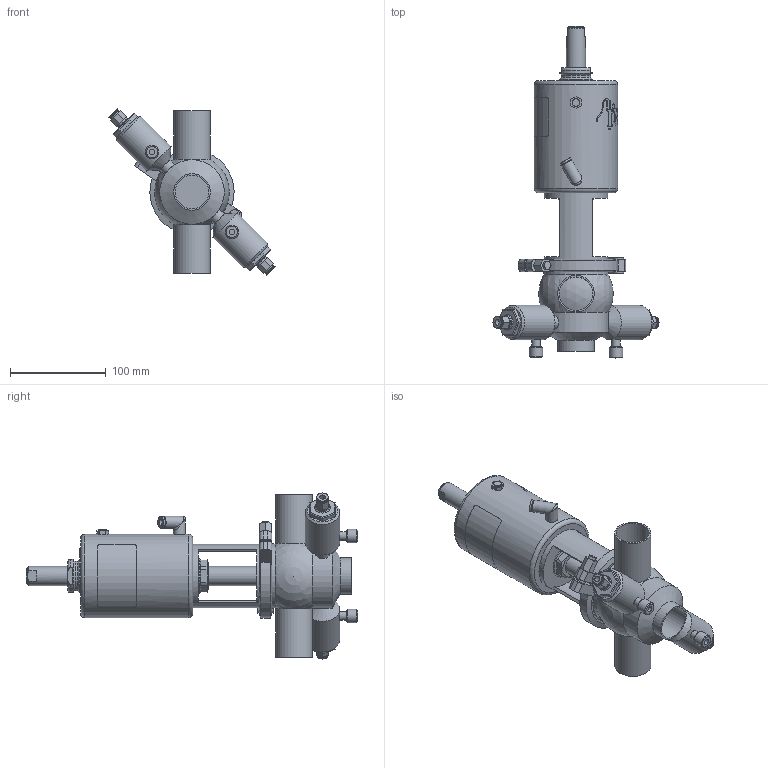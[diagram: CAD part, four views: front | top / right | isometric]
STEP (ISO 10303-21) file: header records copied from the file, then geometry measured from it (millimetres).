
FILE_DESCRIPTION (( 'STEP AP214' ), '1' );
FILE_NAME ('INNOVA D T W OD 1½ T1 AS NC_10.246.16.0002.STEP', '2024-08-08T09:16:52', ( '' ), ( '' ), 'SwSTEP 2.0', 'SolidWorks 2023', '' );
FILE_SCHEMA (( 'AUTOMOTIVE_DESIGN' ));
Length unit declared in the file: millimetre
Products named in the file (5): INNOVA D T W OD 1½ T1 AS NC_10.246.16.0002; 10.240.15.0014_T1 AS P0; 10.240.15.0010_DN 040; 10.246.15.0002_OD 1½"; 10.240.15.0001_DN 040
Assembly tree (4 placements, depth 2):
  INNOVA D T W OD 1½ T1 AS NC_10.246.16.0002
    10.246.15.0002_OD 1½"
    10.240.15.0010_DN 040
    10.240.15.0014_T1 AS P0
    10.240.15.0001_DN 040
Bounding box: 173.38 x 346.5 x 173.38 mm (x, y, z)
Volume: 1275048.8 mm3; surface area: 170382.3 mm2
Topology: 4 solids, 4 shells, 424 faces, 1061 edges, 687 vertices
Faces by surface type: plane 225, cylinder 85, bspline 80, cone 27, torus 4, sphere 3
Full cylindrical faces by diameter (mm): 6 x4, 6.15 x1, 8 x3, 8.5 x1, 9 x2, 10 x2, 10.5 x1, 12 x4, 12.5 x3, 14 x4, 15 x2, 16 x1, 20 x2, 31 x1, 34.5 x2, 34.8 x3, 36 x2, 36.5 x1, 38.1 x3, 66 x1, 67.5 x2, 79.5 x2, 87 x1
Entity records: 21954 total; most frequent: CARTESIAN_POINT 10948, ORIENTED_EDGE 1928, DIRECTION 1611, EDGE_CURVE 964, VERTEX_POINT 667, AXIS2_PLACEMENT_3D 607, EDGE_LOOP 551, FACE_OUTER_BOUND 479
